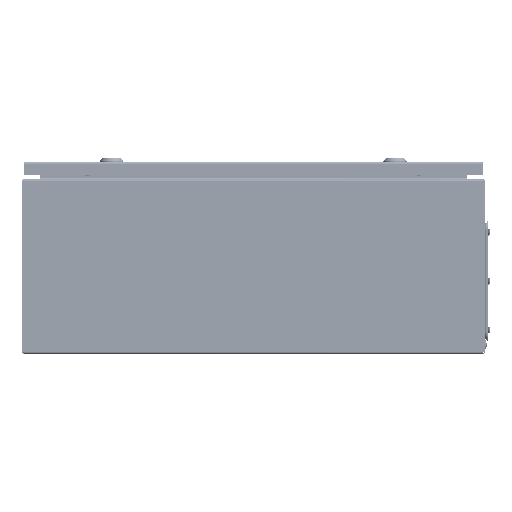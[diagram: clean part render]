
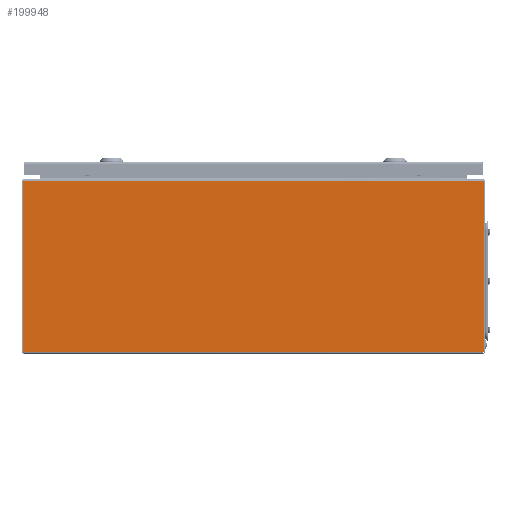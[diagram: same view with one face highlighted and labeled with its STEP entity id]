
A CAD part, left-side view. The second image highlights one B-rep face of the part: STEP entity #199948.
In plain terms, the highlighted planar face has unit normal (-1, 0, 0).
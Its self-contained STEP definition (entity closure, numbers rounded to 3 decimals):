
#10550 = CARTESIAN_POINT ( 'NONE',  ( -200., -298.423, 2.9 ) ) ;
#11537 = CARTESIAN_POINT ( 'NONE',  ( -200., 298.529, 2.9 ) ) ;
#11879 = VECTOR ( 'NONE', #208849, 1000. ) ;
#12336 = VECTOR ( 'NONE', #229826, 1000. ) ;
#18064 = CARTESIAN_POINT ( 'NONE',  ( -200., -298.529, 223.85 ) ) ;
#37842 = VERTEX_POINT ( 'NONE', #138448 ) ;
#43302 = VECTOR ( 'NONE', #202190, 1000. ) ;
#50710 = AXIS2_PLACEMENT_3D ( 'NONE', #199548, #216121, #214950 ) ;
#53093 = ORIENTED_EDGE ( 'NONE', *, *, #226407, .F. ) ;
#60170 = ORIENTED_EDGE ( 'NONE', *, *, #66646, .F. ) ;
#63510 = CARTESIAN_POINT ( 'NONE',  ( -200., 298.529, 223.85 ) ) ;
#65165 = EDGE_CURVE ( 'NONE', #185597, #189578, #85030, .T. ) ;
#66646 = EDGE_CURVE ( 'NONE', #189578, #37842, #185802, .T. ) ;
#67339 = LINE ( 'NONE', #10550, #12336 ) ;
#67678 = VECTOR ( 'NONE', #80232, 1000. ) ;
#68537 = VECTOR ( 'NONE', #170359, 1000. ) ;
#77176 = ORIENTED_EDGE ( 'NONE', *, *, #97905, .T. ) ;
#78227 = CARTESIAN_POINT ( 'NONE',  ( -200., -298.423, 223.85 ) ) ;
#80232 = DIRECTION ( 'NONE',  ( 0., 1., 0. ) ) ;
#85030 = LINE ( 'NONE', #11537, #219784 ) ;
#91892 = CARTESIAN_POINT ( 'NONE',  ( -200., -298.529, 2.9 ) ) ;
#97905 = EDGE_CURVE ( 'NONE', #139357, #221262, #138226, .T. ) ;
#99269 = LINE ( 'NONE', #135971, #212655 ) ;
#104510 = CARTESIAN_POINT ( 'NONE',  ( -200., 298.529, 223.85 ) ) ;
#126028 = PLANE ( 'NONE',  #50710 ) ;
#127198 = FACE_OUTER_BOUND ( 'NONE', #213587, .T. ) ;
#129847 = LINE ( 'NONE', #91892, #43302 ) ;
#133830 = VERTEX_POINT ( 'NONE', #220278 ) ;
#135340 = CARTESIAN_POINT ( 'NONE',  ( -200., -298.423, 2.9 ) ) ;
#135971 = CARTESIAN_POINT ( 'NONE',  ( -200., 298.423, 2.9 ) ) ;
#137794 = ORIENTED_EDGE ( 'NONE', *, *, #178474, .T. ) ;
#138226 = LINE ( 'NONE', #18064, #166622 ) ;
#138448 = CARTESIAN_POINT ( 'NONE',  ( -200., 298.423, 223.85 ) ) ;
#139357 = VERTEX_POINT ( 'NONE', #202475 ) ;
#140302 = EDGE_CURVE ( 'NONE', #133830, #185597, #99269, .T. ) ;
#141909 = DIRECTION ( 'NONE',  ( 0., 0., 1. ) ) ;
#153163 = EDGE_CURVE ( 'NONE', #230807, #199417, #67339, .T. ) ;
#165692 = CARTESIAN_POINT ( 'NONE',  ( -200., -3300., 223.85 ) ) ;
#166622 = VECTOR ( 'NONE', #210523, 1000. ) ;
#170359 = DIRECTION ( 'NONE',  ( 0., -1., 0. ) ) ;
#172164 = LINE ( 'NONE', #188748, #11879 ) ;
#178474 = EDGE_CURVE ( 'NONE', #199417, #139357, #129847, .T. ) ;
#185597 = VERTEX_POINT ( 'NONE', #194694 ) ;
#185802 = LINE ( 'NONE', #63510, #68537 ) ;
#187061 = ORIENTED_EDGE ( 'NONE', *, *, #153163, .T. ) ;
#188748 = CARTESIAN_POINT ( 'NONE',  ( -200., -3300., 2.9 ) ) ;
#189578 = VERTEX_POINT ( 'NONE', #104510 ) ;
#194694 = CARTESIAN_POINT ( 'NONE',  ( -200., 298.529, 2.9 ) ) ;
#194989 = ORIENTED_EDGE ( 'NONE', *, *, #140302, .F. ) ;
#199417 = VERTEX_POINT ( 'NONE', #224093 ) ;
#199548 = CARTESIAN_POINT ( 'NONE',  ( -200., -3300., 223.85 ) ) ;
#199948 = ADVANCED_FACE ( 'NONE', ( #127198 ), #126028, .F. ) ;
#202190 = DIRECTION ( 'NONE',  ( 0., 0., 1. ) ) ;
#202475 = CARTESIAN_POINT ( 'NONE',  ( -200., -298.529, 223.85 ) ) ;
#203208 = ORIENTED_EDGE ( 'NONE', *, *, #65165, .F. ) ;
#208849 = DIRECTION ( 'NONE',  ( 0., 1., 0. ) ) ;
#210523 = DIRECTION ( 'NONE',  ( 0., 1., 0. ) ) ;
#212655 = VECTOR ( 'NONE', #226090, 1000. ) ;
#213587 = EDGE_LOOP ( 'NONE', ( #227910, #60170, #203208, #194989, #53093, #187061, #137794, #77176 ) ) ;
#214950 = DIRECTION ( 'NONE',  ( 0., 0., -1. ) ) ;
#216121 = DIRECTION ( 'NONE',  ( 1., 0., 0. ) ) ;
#219784 = VECTOR ( 'NONE', #141909, 1000. ) ;
#220278 = CARTESIAN_POINT ( 'NONE',  ( -200., 298.423, 2.9 ) ) ;
#221262 = VERTEX_POINT ( 'NONE', #78227 ) ;
#221362 = LINE ( 'NONE', #165692, #67678 ) ;
#222914 = EDGE_CURVE ( 'NONE', #221262, #37842, #221362, .T. ) ;
#224093 = CARTESIAN_POINT ( 'NONE',  ( -200., -298.529, 2.9 ) ) ;
#226090 = DIRECTION ( 'NONE',  ( 0., 1., 0. ) ) ;
#226407 = EDGE_CURVE ( 'NONE', #230807, #133830, #172164, .T. ) ;
#227910 = ORIENTED_EDGE ( 'NONE', *, *, #222914, .T. ) ;
#229826 = DIRECTION ( 'NONE',  ( 0., -1., 0. ) ) ;
#230807 = VERTEX_POINT ( 'NONE', #135340 ) ;
